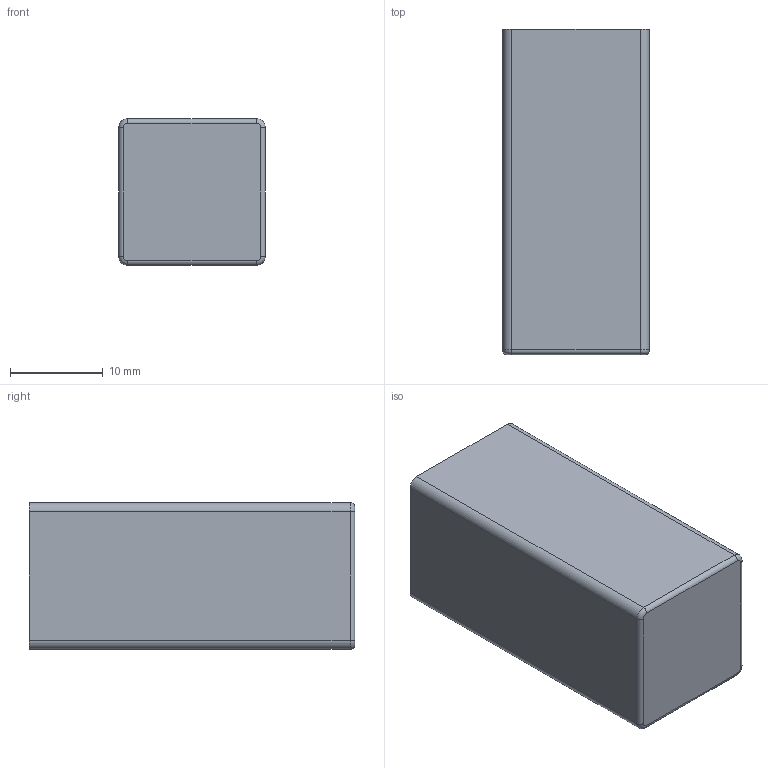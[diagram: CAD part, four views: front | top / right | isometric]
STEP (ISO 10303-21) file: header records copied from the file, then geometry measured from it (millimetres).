
FILE_DESCRIPTION (( 'STEP AP203' ), '1' );
FILE_NAME ('Ballast Cell.STEP', '2025-05-08T01:56:47', ( '' ), ( '' ), 'SwSTEP 2.0', 'SolidWorks 2023', '' );
FILE_SCHEMA (( 'CONFIG_CONTROL_DESIGN' ));
Length unit declared in the file: millimetre
Products named in the file (1): Ballast Cell
Bounding box: 15.8 x 35 x 15.8 mm (x, y, z)
Volume: 2135 mm3; surface area: 4526.6 mm2
Topology: 1 solids, 1 shells, 23 faces, 52 edges, 32 vertices
Faces by surface type: plane 11, cylinder 8, torus 4
Entity records: 719 total; most frequent: DIRECTION 120, CARTESIAN_POINT 108, ORIENTED_EDGE 104, EDGE_CURVE 52, AXIS2_PLACEMENT_3D 44, VECTOR 32, LINE 32, VERTEX_POINT 32
